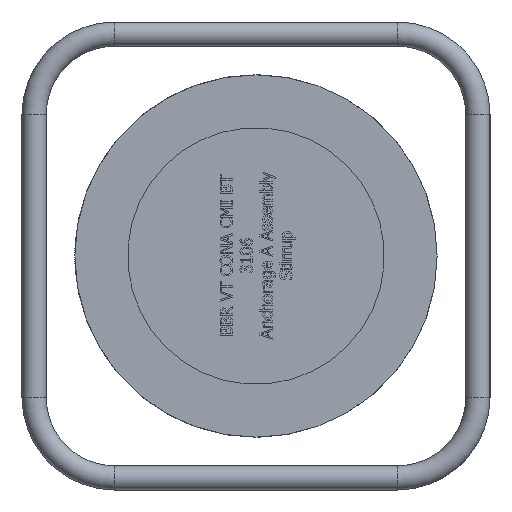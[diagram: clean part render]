
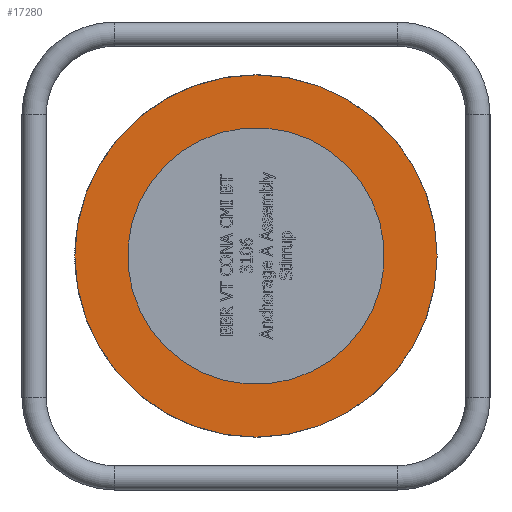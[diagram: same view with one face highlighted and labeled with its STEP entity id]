
A CAD part, left-side view. The second image highlights one B-rep face of the part: STEP entity #17280.
In plain terms, the highlighted planar face has unit normal (-1, 0, 0).
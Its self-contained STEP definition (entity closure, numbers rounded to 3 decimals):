
#108=FACE_BOUND('',#6032,.T.);
#1557=PLANE('',#17936);
#5052=FACE_OUTER_BOUND('',#6031,.T.);
#6031=EDGE_LOOP('',(#14612));
#6032=EDGE_LOOP('',(#14613));
#6261=CIRCLE('',#17932,127.5);
#6264=CIRCLE('',#17937,180.);
#7915=VERTEX_POINT('',#31067);
#7919=VERTEX_POINT('',#31099);
#10177=EDGE_CURVE('',#7915,#7915,#6261,.T.);
#10182=EDGE_CURVE('',#7919,#7919,#6264,.T.);
#14612=ORIENTED_EDGE('',*,*,#10182,.T.);
#14613=ORIENTED_EDGE('',*,*,#10177,.T.);
#17280=ADVANCED_FACE('',(#5052,#108),#1557,.T.);
#17932=AXIS2_PLACEMENT_3D('',#31068,#20587,#20588);
#17936=AXIS2_PLACEMENT_3D('',#31098,#20596,#20597);
#17937=AXIS2_PLACEMENT_3D('',#31100,#20598,#20599);
#20587=DIRECTION('center_axis',(1.,0.,0.));
#20588=DIRECTION('ref_axis',(0.,-0.824,-0.566));
#20596=DIRECTION('center_axis',(-1.,0.,0.));
#20597=DIRECTION('ref_axis',(0.,0.,
1.));
#20598=DIRECTION('center_axis',(-1.,0.,0.));
#20599=DIRECTION('ref_axis',(0.,-1.,0.));
#31067=CARTESIAN_POINT('',(-250.,105.119,72.154));
#31068=CARTESIAN_POINT('Origin',(-250.,0.,0.));
#31098=CARTESIAN_POINT('Origin',(-250.,-142.25,0.));
#31099=CARTESIAN_POINT('',(-250.,180.,0.));
#31100=CARTESIAN_POINT('Origin',(-250.,0.,0.));
